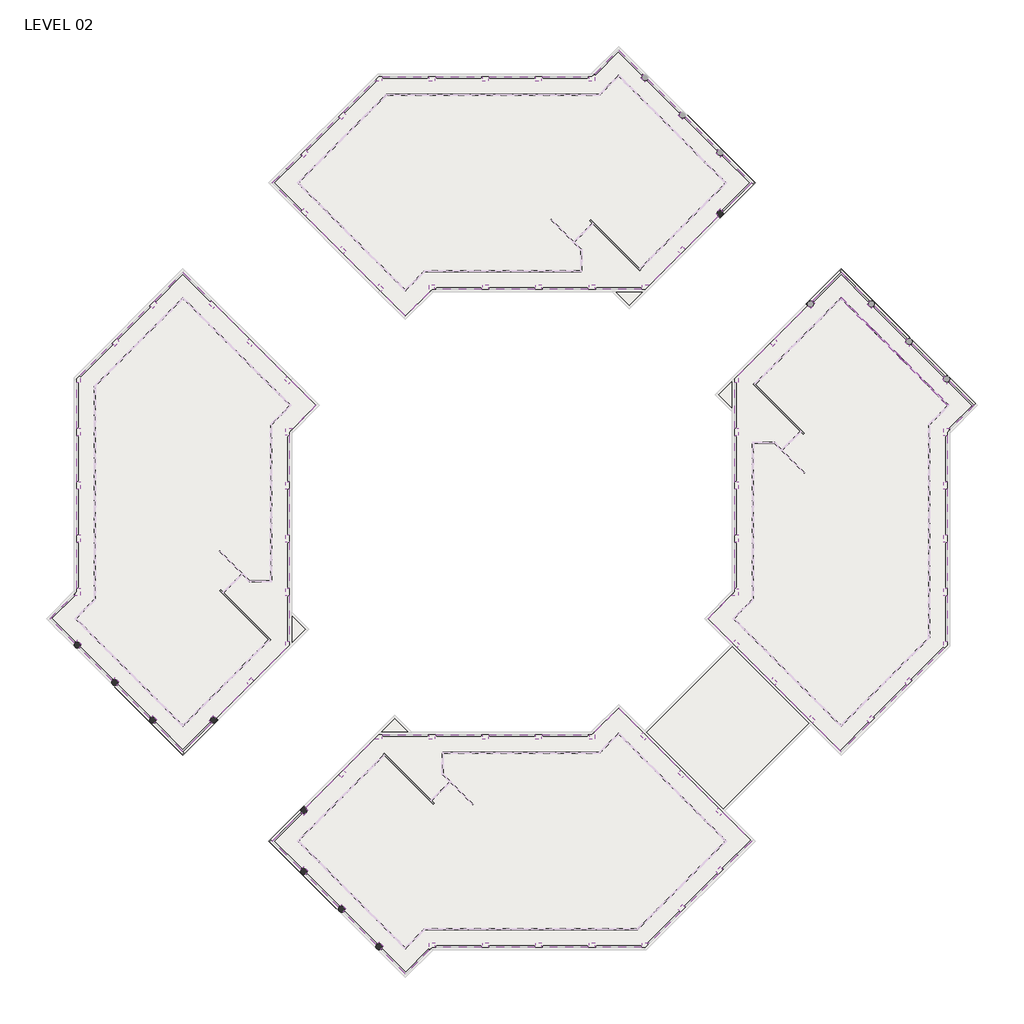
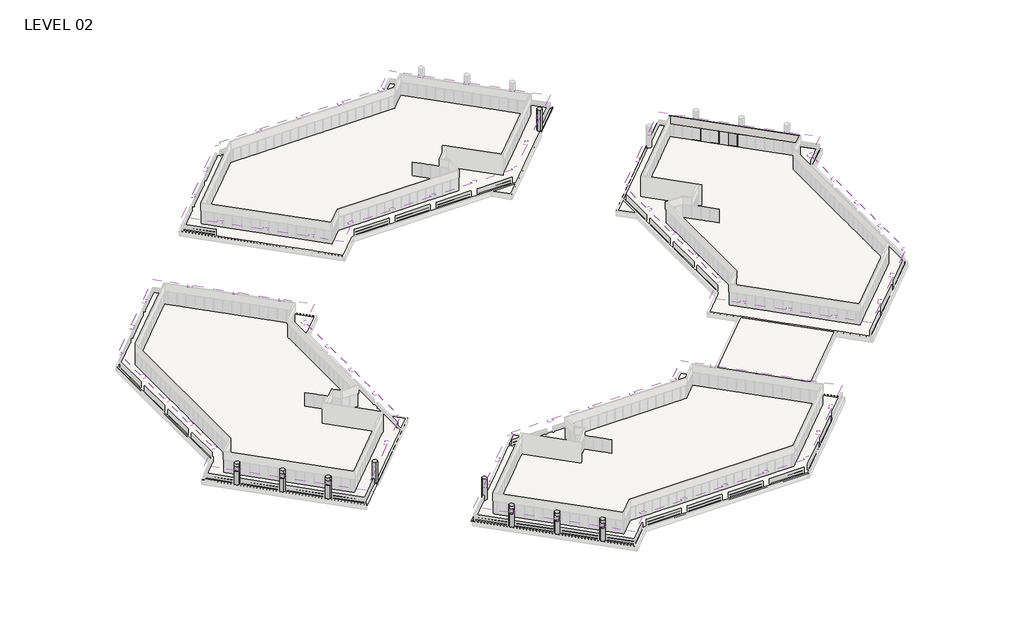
# One storey, part 18 of 19: 9 columns, 8 members, 5 slabs, 4 coverings, 2 walls, 1 plate.
"""IFC4 building model written with IfcOpenShell, lengths in millimetres."""

from ifc_helpers import new_model, si_unit, point, frame, frame_2d, origin, place, context, project, spatial, polyline, circle_curve, trimmed, segment, composite_curve, outline, extrude, faceted_brep, transform, mapped, element, save
from ifc_brep_helpers import plane_surface, cylinder_surface, advanced_brep
from components import member_5247f267, member_e44af9ab, member_c23f844a, plate_048e4634

model = new_model("IFC4")

# Units and contexts
model_context = context("Model", 3, world=origin())
ifc_project = project(units=[si_unit("LENGTHUNIT", "METRE", prefix="MILLI")], contexts=[model_context])

# Site, building, storey
site = spatial("IfcSite", under=ifc_project)
building = spatial("IfcBuilding", under=site)
storey = spatial("IfcBuildingStorey", under=building, Name="LEVEL 02", Elevation=4140.2)

# Columns
placement = place(None, origin())
element("IfcColumn", 1, ObjectType="Round Column : 36\" Diameter", at=placement, inside=storey, context=model_context, shape_type="SweptSolid", body=[
    extrude(outline(composite_curve([segment(trimmed(circle_curve(frame_2d((71.737385, 14832.2908231)), 457.2), [point((528.937385, 14832.2908231))], [point((-385.462615, 14832.2908231))], False, "CARTESIAN"), True, "CONTINUOUS"), segment(trimmed(circle_curve(frame_2d((71.737385, 14832.2908231)), 457.2), [point((-385.462615, 14832.2908231))], [point((71.737385, 15289.4908231))], False, "CARTESIAN"), True, "CONTINUOUS"), segment(trimmed(circle_curve(frame_2d((71.737385, 14832.2908231)), 457.2), [point((71.737385, 15289.4908231))], [point((528.937385, 14832.2908231))], False, "CARTESIAN"), True, "CONTINUOUS")], self_intersect=False)), frame((0.0, 0.0, 4140.2), z_axis=(0.0, 0.0, 1.0), x_axis=(1.0, 0.0, 0.0)), (0.0, 0.0, 1.0), 4140.2),
])
element("IfcColumn", 2, ObjectType="Round Column : 36\" Diameter", at=placement, inside=storey, context=model_context, shape_type="AdvancedBrep", body=[
    advanced_brep(
    [(-385.357951, 6155.8249211, 4140.2), (71.842049, 6613.0249211, 4140.2), (529.042049, 6155.8249211, 4140.2), (529.042049, 6155.8249211, 8280.4), (-385.357951, 6155.8249211, 8280.4), (-385.357951, 6155.8249211, 7721.6), (-251.4471714, 5832.5357007, 7721.6), (268.8789755, 5743.2618476, 7721.6), (268.8789755, 5743.2618476, 6731.0), (-251.4471714, 5832.5357007, 6731.0), (-385.357951, 6155.8249211, 6731.0), (71.842049, 6613.0249211, 8280.4), (-340.7210245, 6352.8618476, 6731.0), (-340.7210245, 6352.8618476, 7721.6)],
    [
        (0, 1, circle_curve(frame((71.842049, 6155.8249211, 4140.2), z_axis=(0.0, 0.0, -1.0), x_axis=(-1.0, 0.0, 0.0)), 457.2)),
        (1, 2, circle_curve(frame((71.842049, 6155.8249211, 4140.2), z_axis=(0.0, 0.0, -1.0), x_axis=(-1.0, 0.0, 0.0)), 457.2)),
        (2, 0, circle_curve(frame((71.842049, 6155.8249211, 4140.2), z_axis=(0.0, 0.0, -1.0), x_axis=(-1.0, 0.0, 0.0)), 457.2)),
        (2, 3),
        (3, 4, circle_curve(frame((71.842049, 6155.8249211, 8280.4), z_axis=(0.0, 0.0, -1.0), x_axis=(-1.0, 0.0, 0.0)), 457.2)),
        (4, 5),
        (5, 6, circle_curve(frame((71.842049, 6155.8249211, 7721.6), z_axis=(0.0, 0.0, 1.0), x_axis=(-1.0, 0.0, 0.0)), 457.2)),
        (6, 7, circle_curve(frame((71.842049, 6155.8249211, 7721.6), z_axis=(0.0, 0.0, 1.0), x_axis=(-1.0, 0.0, 0.0)), 457.2)),
        (7, 8),
        (8, 9, circle_curve(frame((71.842049, 6155.8249211, 6731.0), z_axis=(0.0, 0.0, -1.0), x_axis=(-1.0, 0.0, 0.0)), 457.2)),
        (9, 10, circle_curve(frame((71.842049, 6155.8249211, 6731.0), z_axis=(0.0, 0.0, -1.0), x_axis=(-1.0, 0.0, 0.0)), 457.2)),
        (10, 0),
        (1, 11),
        (11, 3, circle_curve(frame((71.842049, 6155.8249211, 8280.4), z_axis=(0.0, 0.0, -1.0), x_axis=(-1.0, 0.0, 0.0)), 457.2)),
        (10, 12, circle_curve(frame((71.842049, 6155.8249211, 6731.0), z_axis=(0.0, 0.0, -1.0), x_axis=(-1.0, 0.0, 0.0)), 457.2)),
        (12, 13),
        (13, 5, circle_curve(frame((71.842049, 6155.8249211, 7721.6), z_axis=(0.0, 0.0, 1.0), x_axis=(-1.0, 0.0, 0.0)), 457.2)),
        (4, 11, circle_curve(frame((71.842049, 6155.8249211, 8280.4), z_axis=(0.0, 0.0, -1.0), x_axis=(-1.0, 0.0, 0.0)), 457.2)),
        (7, 13),
        (12, 8),
    ],
    [
        plane_surface(frame((-385.357951, 6155.8249211, 4140.2), z_axis=(0.0, 0.0, -1.0), x_axis=(0.0, -1.0, 0.0))),
        cylinder_surface(frame((71.842049, 6155.8249211, 4140.2), z_axis=(0.0, 0.0, 1.0), x_axis=(-1.0, 0.0, 0.0)), 457.2),
        plane_surface(frame((-385.357951, 6155.8249211, 8280.4), z_axis=(0.0, 0.0, 1.0), x_axis=(0.0, 1.0, 0.0))),
        plane_surface(frame((14801.4761469, -8789.3353238, 6731.0), z_axis=(-0.7071067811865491, -0.7071067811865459, 0.0), x_axis=(-0.7071067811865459, 0.7071067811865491, 0.0))),
        plane_surface(frame((14693.7130735, -8681.5722503, 6731.0), z_axis=(0.0, 0.0, 1.0), x_axis=(-0.7071067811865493, -0.7071067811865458, 0.0))),
        plane_surface(frame((-4589.6801224, 10601.8209456, 7721.6), z_axis=(0.0, 0.0, -1.0000000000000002), x_axis=(-0.707106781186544, -0.7071067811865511, 0.0))),
    ],
    [
        (0, [[1, 2, 3]]),
        (1, [[-3, 4, 5, 6, 7, 8, 9, 10, 11, 12]]),
        (1, [[-2, 13, 14, -4]]),
        (1, [[-1, -12, 15, 16, 17, -6, 18, -13]]),
        (2, [[-5, -14, -18]]),
        (3, [[19, -16, 20, -9]]),
        (4, [[-20, -15, -11, -10]]),
        (5, [[-19, -8, -7, -17]]),
    ],
),
])
element("IfcColumn", 3, ObjectType="Round Column : 36\" Diameter", at=placement, inside=storey, context=model_context, shape_type="AdvancedBrep", body=[
    advanced_brep(
    [(5002.617049, 767.8499211, 4140.2), (5459.817049, 1225.0499211, 4140.2), (5917.017049, 767.8499211, 4140.2), (5917.017049, 767.8499211, 8280.4), (5002.617049, 767.8499211, 8280.4), (5002.617049, 767.8499211, 7721.6), (5136.5278286, 444.5607007, 7721.6), (5656.8539755, 355.2868476, 7721.6), (5656.8539755, 355.2868476, 6731.0), (5136.5278286, 444.5607007, 6731.0), (5002.617049, 767.8499211, 6731.0), (5459.817049, 1225.0499211, 8280.4), (5047.2539755, 964.8868476, 6731.0), (5047.2539755, 964.8868476, 7721.6)],
    [
        (0, 1, circle_curve(frame((5459.817049, 767.8499211, 4140.2), z_axis=(0.0, 0.0, -1.0), x_axis=(-1.0, 0.0, 0.0)), 457.2)),
        (1, 2, circle_curve(frame((5459.817049, 767.8499211, 4140.2), z_axis=(0.0, 0.0, -1.0), x_axis=(-1.0, 0.0, 0.0)), 457.2)),
        (2, 0, circle_curve(frame((5459.817049, 767.8499211, 4140.2), z_axis=(0.0, 0.0, -1.0), x_axis=(-1.0, 0.0, 0.0)), 457.2)),
        (2, 3),
        (3, 4, circle_curve(frame((5459.817049, 767.8499211, 8280.4), z_axis=(0.0, 0.0, -1.0), x_axis=(-1.0, 0.0, 0.0)), 457.2)),
        (4, 5),
        (5, 6, circle_curve(frame((5459.817049, 767.8499211, 7721.6), z_axis=(0.0, 0.0, 1.0), x_axis=(-1.0, 0.0, 0.0)), 457.2)),
        (6, 7, circle_curve(frame((5459.817049, 767.8499211, 7721.6), z_axis=(0.0, 0.0, 1.0), x_axis=(-1.0, 0.0, 0.0)), 457.2)),
        (7, 8),
        (8, 9, circle_curve(frame((5459.817049, 767.8499211, 6731.0), z_axis=(0.0, 0.0, -1.0), x_axis=(-1.0, 0.0, 0.0)), 457.2)),
        (9, 10, circle_curve(frame((5459.817049, 767.8499211, 6731.0), z_axis=(0.0, 0.0, -1.0), x_axis=(-1.0, 0.0, 0.0)), 457.2)),
        (10, 0),
        (1, 11),
        (11, 3, circle_curve(frame((5459.817049, 767.8499211, 8280.4), z_axis=(0.0, 0.0, -1.0), x_axis=(-1.0, 0.0, 0.0)), 457.2)),
        (10, 12, circle_curve(frame((5459.817049, 767.8499211, 6731.0), z_axis=(0.0, 0.0, -1.0), x_axis=(-1.0, 0.0, 0.0)), 457.2)),
        (12, 13),
        (13, 5, circle_curve(frame((5459.817049, 767.8499211, 7721.6), z_axis=(0.0, 0.0, 1.0), x_axis=(-1.0, 0.0, 0.0)), 457.2)),
        (4, 11, circle_curve(frame((5459.817049, 767.8499211, 8280.4), z_axis=(0.0, 0.0, -1.0), x_axis=(-1.0, 0.0, 0.0)), 457.2)),
        (7, 13),
        (12, 8),
    ],
    [
        plane_surface(frame((5002.617049, 767.8499211, 4140.2), z_axis=(0.0, 0.0, -1.0), x_axis=(0.0, -1.0, 0.0))),
        cylinder_surface(frame((5459.817049, 767.8499211, 4140.2), z_axis=(0.0, 0.0, 1.0), x_axis=(-1.0, 0.0, 0.0)), 457.2),
        plane_surface(frame((5002.617049, 767.8499211, 8280.4), z_axis=(0.0, 0.0, 1.0), x_axis=(0.0, 1.0, 0.0))),
        plane_surface(frame((14801.4761469, -8789.3353238, 6731.0), z_axis=(-0.7071067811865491, -0.7071067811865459, 0.0), x_axis=(-0.7071067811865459, 0.7071067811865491, 0.0))),
        plane_surface(frame((14693.7130735, -8681.5722503, 6731.0), z_axis=(0.0, 0.0, 1.0), x_axis=(-0.7071067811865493, -0.7071067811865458, 0.0))),
        plane_surface(frame((-4589.6801224, 10601.8209456, 7721.6), z_axis=(0.0, 0.0, -1.0000000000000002), x_axis=(-0.707106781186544, -0.7071067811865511, 0.0))),
    ],
    [
        (0, [[1, 2, 3]]),
        (1, [[-3, 4, 5, 6, 7, 8, 9, 10, 11, 12]]),
        (1, [[-2, 13, 14, -4]]),
        (1, [[-1, -12, 15, 16, 17, -6, 18, -13]]),
        (2, [[-5, -14, -18]]),
        (3, [[19, -16, 20, -9]]),
        (4, [[-20, -15, -11, -10]]),
        (5, [[-19, -8, -7, -17]]),
    ],
),
])
element("IfcColumn", 4, ObjectType="Round Column : 36\" Diameter", at=placement, inside=storey, context=model_context, shape_type="AdvancedBrep", body=[
    advanced_brep(
    [(10360.8340979, -4590.3671279, 4140.2), (10818.0340979, -4133.1671279, 4140.2), (11275.2340979, -4590.3671279, 4140.2), (11275.2340979, -4590.3671279, 8280.4), (10360.8340979, -4590.3671279, 8280.4), (10360.8340979, -4590.3671279, 7721.6), (10494.7448776, -4913.6563482, 7721.6), (11015.0710245, -5002.9302013, 7721.6), (11015.0710245, -5002.9302013, 6731.0), (10494.7448776, -4913.6563482, 6731.0), (10360.8340979, -4590.3671279, 6731.0), (10818.0340979, -4133.1671279, 8280.4), (10405.4710245, -4393.3302013, 6731.0), (10405.4710245, -4393.3302013, 7721.6)],
    [
        (0, 1, circle_curve(frame((10818.0340979, -4590.3671279, 4140.2), z_axis=(0.0, 0.0, -1.0), x_axis=(-1.0, 0.0, 0.0)), 457.2)),
        (1, 2, circle_curve(frame((10818.0340979, -4590.3671279, 4140.2), z_axis=(0.0, 0.0, -1.0), x_axis=(-1.0, 0.0, 0.0)), 457.2)),
        (2, 0, circle_curve(frame((10818.0340979, -4590.3671279, 4140.2), z_axis=(0.0, 0.0, -1.0), x_axis=(-1.0, 0.0, 0.0)), 457.2)),
        (2, 3),
        (3, 4, circle_curve(frame((10818.0340979, -4590.3671279, 8280.4), z_axis=(0.0, 0.0, -1.0), x_axis=(-1.0, 0.0, 0.0)), 457.2)),
        (4, 5),
        (5, 6, circle_curve(frame((10818.0340979, -4590.3671279, 7721.6), z_axis=(0.0, 0.0, 1.0), x_axis=(-1.0, 0.0, 0.0)), 457.2)),
        (6, 7, circle_curve(frame((10818.0340979, -4590.3671279, 7721.6), z_axis=(0.0, 0.0, 1.0), x_axis=(-1.0, 0.0, 0.0)), 457.2)),
        (7, 8),
        (8, 9, circle_curve(frame((10818.0340979, -4590.3671279, 6731.0), z_axis=(0.0, 0.0, -1.0), x_axis=(-1.0, 0.0, 0.0)), 457.2)),
        (9, 10, circle_curve(frame((10818.0340979, -4590.3671279, 6731.0), z_axis=(0.0, 0.0, -1.0), x_axis=(-1.0, 0.0, 0.0)), 457.2)),
        (10, 0),
        (1, 11),
        (11, 3, circle_curve(frame((10818.0340979, -4590.3671279, 8280.4), z_axis=(0.0, 0.0, -1.0), x_axis=(-1.0, 0.0, 0.0)), 457.2)),
        (10, 12, circle_curve(frame((10818.0340979, -4590.3671279, 6731.0), z_axis=(0.0, 0.0, -1.0), x_axis=(-1.0, 0.0, 0.0)), 457.2)),
        (12, 13),
        (13, 5, circle_curve(frame((10818.0340979, -4590.3671279, 7721.6), z_axis=(0.0, 0.0, 1.0), x_axis=(-1.0, 0.0, 0.0)), 457.2)),
        (4, 11, circle_curve(frame((10818.0340979, -4590.3671279, 8280.4), z_axis=(0.0, 0.0, -1.0), x_axis=(-1.0, 0.0, 0.0)), 457.2)),
        (7, 13),
        (12, 8),
    ],
    [
        plane_surface(frame((10360.8340979, -4590.3671279, 4140.2), z_axis=(0.0, 0.0, -1.0), x_axis=(0.0, -1.0, 0.0))),
        cylinder_surface(frame((10818.0340979, -4590.3671279, 4140.2), z_axis=(0.0, 0.0, 1.0), x_axis=(-1.0, 0.0, 0.0)), 457.2),
        plane_surface(frame((10360.8340979, -4590.3671279, 8280.4), z_axis=(0.0, 0.0, 1.0), x_axis=(0.0, 1.0, 0.0))),
        plane_surface(frame((14801.4761469, -8789.3353238, 6731.0), z_axis=(-0.7071067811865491, -0.7071067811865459, 0.0), x_axis=(-0.7071067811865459, 0.7071067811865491, 0.0))),
        plane_surface(frame((14693.7130735, -8681.5722503, 6731.0), z_axis=(0.0, 0.0, 1.0), x_axis=(-0.7071067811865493, -0.7071067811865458, 0.0))),
        plane_surface(frame((-4589.6801224, 10601.8209456, 7721.6), z_axis=(0.0, 0.0, -1.0000000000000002), x_axis=(-0.707106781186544, -0.7071067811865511, 0.0))),
    ],
    [
        (0, [[1, 2, 3]]),
        (1, [[-3, 4, 5, 6, 7, 8, 9, 10, 11, 12]]),
        (1, [[-2, 13, 14, -4]]),
        (1, [[-1, -12, 15, 16, 17, -6, 18, -13]]),
        (2, [[-5, -14, -18]]),
        (3, [[19, -16, 20, -9]]),
        (4, [[-20, -15, -11, -10]]),
        (5, [[-19, -8, -7, -17]]),
    ],
),
])
element("IfcColumn", 5, ObjectType="Round Column : 36\" Diameter", at=placement, inside=storey, context=model_context, shape_type="SweptSolid", body=[
    extrude(outline(composite_curve([segment(trimmed(circle_curve(frame_2d((59580.162615, 100203.6443539)), 457.2), [point((59122.962615, 100203.6443539))], [point((60037.362615, 100203.6443539))], False, "CARTESIAN"), True, "CONTINUOUS"), segment(trimmed(circle_curve(frame_2d((59580.162615, 100203.6443539)), 457.2), [point((60037.362615, 100203.6443539))], [point((59580.162615, 99746.4443539))], False, "CARTESIAN"), True, "CONTINUOUS"), segment(trimmed(circle_curve(frame_2d((59580.162615, 100203.6443539)), 457.2), [point((59580.162615, 99746.4443539))], [point((59122.962615, 100203.6443539))], False, "CARTESIAN"), True, "CONTINUOUS")], self_intersect=False)), frame((0.0, 0.0, 4140.2), z_axis=(0.0, 0.0, 1.0), x_axis=(1.0, 0.0, 0.0)), (0.0, 0.0, 1.0), 4140.2),
])
element("IfcColumn", 6, ObjectType="Round Column : 36\" Diameter", at=placement, inside=storey, context=model_context, shape_type="SweptSolid", body=[
    extrude(outline(composite_curve([segment(trimmed(circle_curve(frame_2d((-12859.7267654, 27763.7549735)), 457.2), [point((-12859.7267654, 28220.9549735))], [point((-12402.5267654, 27763.7549735))], False, "CARTESIAN"), True, "CONTINUOUS"), segment(trimmed(circle_curve(frame_2d((-12859.7267654, 27763.7549735)), 457.2), [point((-12402.5267654, 27763.7549735))], [point((-12859.7267654, 27306.5549735))], False, "CARTESIAN"), True, "CONTINUOUS"), segment(trimmed(circle_curve(frame_2d((-12859.7267654, 27763.7549735)), 457.2), [point((-12859.7267654, 27306.5549735))], [point((-12859.7267654, 28220.9549735))], False, "CARTESIAN"), True, "CONTINUOUS")], self_intersect=False)), frame((0.0, 0.0, 4140.2), z_axis=(0.0, 0.0, 1.0), x_axis=(1.0, 0.0, 0.0)), (0.0, 0.0, 1.0), 4140.2),
])
element("IfcColumn", 7, ObjectType="Round Column : 36\" Diameter", at=placement, inside=storey, context=model_context, shape_type="AdvancedBrep", body=[
    advanced_brep(
    [(-21078.9926674, 27763.8596375, 4140.2), (-21536.1926674, 27306.6596375, 4140.2), (-21536.1926674, 28221.0596375, 4140.2), (-21536.1926674, 27306.6596375, 6731.0), (-21859.4818878, 27440.5704171, 6731.0), (-21948.7557409, 27960.896564, 6731.0), (-21948.7557409, 27960.896564, 7721.6), (-21859.4818878, 27440.5704171, 7721.6), (-21536.1926674, 27306.6596375, 7721.6), (-21536.1926674, 27306.6596375, 8280.4), (-21536.1926674, 28221.0596375, 8280.4), (-21078.9926674, 27763.8596375, 8280.4), (-21339.1557409, 27351.296564, 7721.6), (-21339.1557409, 27351.296564, 6731.0)],
    [
        (0, 1, circle_curve(frame((-21536.1926674, 27763.8596375, 4140.2), z_axis=(0.0, 0.0, -1.0), x_axis=(0.0, -1.0, 0.0)), 457.2)),
        (1, 2, circle_curve(frame((-21536.1926674, 27763.8596375, 4140.2), z_axis=(0.0, 0.0, -1.0), x_axis=(0.0, -1.0, 0.0)), 457.2)),
        (2, 0, circle_curve(frame((-21536.1926674, 27763.8596375, 4140.2), z_axis=(0.0, 0.0, -1.0), x_axis=(0.0, -1.0, 0.0)), 457.2)),
        (1, 3),
        (3, 4, circle_curve(frame((-21536.1926674, 27763.8596375, 6731.0), z_axis=(0.0, 0.0, -1.0), x_axis=(0.0, -1.0, 0.0)), 457.2)),
        (4, 5, circle_curve(frame((-21536.1926674, 27763.8596375, 6731.0), z_axis=(0.0, 0.0, -1.0), x_axis=(0.0, -1.0, 0.0)), 457.2)),
        (5, 6),
        (6, 7, circle_curve(frame((-21536.1926674, 27763.8596375, 7721.6), z_axis=(0.0, 0.0, 1.0), x_axis=(0.0, -1.0, 0.0)), 457.2)),
        (7, 8, circle_curve(frame((-21536.1926674, 27763.8596375, 7721.6), z_axis=(0.0, 0.0, 1.0), x_axis=(0.0, -1.0, 0.0)), 457.2)),
        (8, 9),
        (9, 10, circle_curve(frame((-21536.1926674, 27763.8596375, 8280.4), z_axis=(0.0, 0.0, -1.0), x_axis=(0.0, -1.0, 0.0)), 457.2)),
        (10, 2),
        (10, 11, circle_curve(frame((-21536.1926674, 27763.8596375, 8280.4), z_axis=(0.0, 0.0, -1.0), x_axis=(0.0, -1.0, 0.0)), 457.2)),
        (11, 0),
        (11, 9, circle_curve(frame((-21536.1926674, 27763.8596375, 8280.4), z_axis=(0.0, 0.0, -1.0), x_axis=(0.0, -1.0, 0.0)), 457.2)),
        (8, 12, circle_curve(frame((-21536.1926674, 27763.8596375, 7721.6), z_axis=(0.0, 0.0, 1.0), x_axis=(0.0, -1.0, 0.0)), 457.2)),
        (12, 13),
        (13, 3, circle_curve(frame((-21536.1926674, 27763.8596375, 6731.0), z_axis=(0.0, 0.0, -1.0), x_axis=(0.0, -1.0, 0.0)), 457.2)),
        (5, 13),
        (12, 6),
    ],
    [
        plane_surface(frame((-21536.1926674, 27306.6596375, 4140.2), z_axis=(0.0, 0.0, -1.0), x_axis=(-1.0, 0.0, 0.0))),
        cylinder_surface(frame((-21536.1926674, 27763.8596375, 4140.2), z_axis=(0.0, 0.0, 1.0), x_axis=(0.0, -1.0, 0.0)), 457.2),
        plane_surface(frame((-21536.1926674, 27306.6596375, 8280.4), z_axis=(0.0, 0.0, 1.0), x_axis=(1.0, 0.0, 0.0))),
        plane_surface(frame((-36481.3529123, 42493.4937354, 6731.0), z_axis=(-0.7071067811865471, -0.7071067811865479, 0.0), x_axis=(-0.7071067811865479, 0.7071067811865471, 0.0))),
        plane_surface(frame((-36589.1159857, 42170.2045151, 6731.0), z_axis=(0.0, 0.0, 1.0000000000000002), x_axis=(0.7071067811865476, 0.7071067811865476, 0.0))),
        plane_surface(frame((-17305.7227899, 22886.8113192, 7721.6), z_axis=(0.0, 0.0, -1.0000000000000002), x_axis=(0.707106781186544, 0.7071067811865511, 0.0))),
    ],
    [
        (0, [[1, 2, 3]]),
        (1, [[-2, 4, 5, 6, 7, 8, 9, 10, 11, 12]]),
        (1, [[-3, -12, 13, 14]]),
        (1, [[-1, -14, 15, -10, 16, 17, 18, -4]]),
        (2, [[-11, -15, -13]]),
        (3, [[19, -17, 20, -7]]),
        (4, [[-19, -6, -5, -18]]),
        (5, [[-20, -16, -9, -8]]),
    ],
),
])
element("IfcColumn", 8, ObjectType="Round Column : 36\" Diameter", at=placement, inside=storey, context=model_context, shape_type="AdvancedBrep", body=[
    advanced_brep(
    [(-26466.9676674, 33151.8346375, 4140.2), (-26924.1676674, 32694.6346375, 4140.2), (-26924.1676674, 33609.0346375, 4140.2), (-26924.1676674, 32694.6346375, 6731.0), (-27247.4568878, 32828.5454171, 6731.0), (-27336.7307409, 33348.871564, 6731.0), (-27336.7307409, 33348.871564, 7721.6), (-27247.4568878, 32828.5454171, 7721.6), (-26924.1676674, 32694.6346375, 7721.6), (-26924.1676674, 32694.6346375, 8280.4), (-26924.1676674, 33609.0346375, 8280.4), (-26466.9676674, 33151.8346375, 8280.4), (-26727.1307409, 32739.271564, 7721.6), (-26727.1307409, 32739.271564, 6731.0)],
    [
        (0, 1, circle_curve(frame((-26924.1676674, 33151.8346375, 4140.2), z_axis=(0.0, 0.0, -1.0), x_axis=(0.0, -1.0, 0.0)), 457.2)),
        (1, 2, circle_curve(frame((-26924.1676674, 33151.8346375, 4140.2), z_axis=(0.0, 0.0, -1.0), x_axis=(0.0, -1.0, 0.0)), 457.2)),
        (2, 0, circle_curve(frame((-26924.1676674, 33151.8346375, 4140.2), z_axis=(0.0, 0.0, -1.0), x_axis=(0.0, -1.0, 0.0)), 457.2)),
        (1, 3),
        (3, 4, circle_curve(frame((-26924.1676674, 33151.8346375, 6731.0), z_axis=(0.0, 0.0, -1.0), x_axis=(0.0, -1.0, 0.0)), 457.2)),
        (4, 5, circle_curve(frame((-26924.1676674, 33151.8346375, 6731.0), z_axis=(0.0, 0.0, -1.0), x_axis=(0.0, -1.0, 0.0)), 457.2)),
        (5, 6),
        (6, 7, circle_curve(frame((-26924.1676674, 33151.8346375, 7721.6), z_axis=(0.0, 0.0, 1.0), x_axis=(0.0, -1.0, 0.0)), 457.2)),
        (7, 8, circle_curve(frame((-26924.1676674, 33151.8346375, 7721.6), z_axis=(0.0, 0.0, 1.0), x_axis=(0.0, -1.0, 0.0)), 457.2)),
        (8, 9),
        (9, 10, circle_curve(frame((-26924.1676674, 33151.8346375, 8280.4), z_axis=(0.0, 0.0, -1.0), x_axis=(0.0, -1.0, 0.0)), 457.2)),
        (10, 2),
        (10, 11, circle_curve(frame((-26924.1676674, 33151.8346375, 8280.4), z_axis=(0.0, 0.0, -1.0), x_axis=(0.0, -1.0, 0.0)), 457.2)),
        (11, 0),
        (11, 9, circle_curve(frame((-26924.1676674, 33151.8346375, 8280.4), z_axis=(0.0, 0.0, -1.0), x_axis=(0.0, -1.0, 0.0)), 457.2)),
        (8, 12, circle_curve(frame((-26924.1676674, 33151.8346375, 7721.6), z_axis=(0.0, 0.0, 1.0), x_axis=(0.0, -1.0, 0.0)), 457.2)),
        (12, 13),
        (13, 3, circle_curve(frame((-26924.1676674, 33151.8346375, 6731.0), z_axis=(0.0, 0.0, -1.0), x_axis=(0.0, -1.0, 0.0)), 457.2)),
        (5, 13),
        (12, 6),
    ],
    [
        plane_surface(frame((-26924.1676674, 32694.6346375, 4140.2), z_axis=(0.0, 0.0, -1.0), x_axis=(-1.0, 0.0, 0.0))),
        cylinder_surface(frame((-26924.1676674, 33151.8346375, 4140.2), z_axis=(0.0, 0.0, 1.0), x_axis=(0.0, -1.0, 0.0)), 457.2),
        plane_surface(frame((-26924.1676674, 32694.6346375, 8280.4), z_axis=(0.0, 0.0, 1.0), x_axis=(1.0, 0.0, 0.0))),
        plane_surface(frame((-36481.3529123, 42493.4937354, 6731.0), z_axis=(-0.7071067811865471, -0.7071067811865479, 0.0), x_axis=(-0.7071067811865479, 0.7071067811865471, 0.0))),
        plane_surface(frame((-36589.1159857, 42170.2045151, 6731.0), z_axis=(0.0, 0.0, 1.0000000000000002), x_axis=(0.7071067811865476, 0.7071067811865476, 0.0))),
        plane_surface(frame((-17305.7227899, 22886.8113192, 7721.6), z_axis=(0.0, 0.0, -1.0000000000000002), x_axis=(0.707106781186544, 0.7071067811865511, 0.0))),
    ],
    [
        (0, [[1, 2, 3]]),
        (1, [[-2, 4, 5, 6, 7, 8, 9, 10, 11, 12]]),
        (1, [[-3, -12, 13, 14]]),
        (1, [[-1, -14, 15, -10, 16, 17, 18, -4]]),
        (2, [[-11, -15, -13]]),
        (3, [[19, -17, 20, -7]]),
        (4, [[-19, -6, -5, -18]]),
        (5, [[-20, -16, -9, -8]]),
    ],
),
])
element("IfcColumn", 9, ObjectType="Round Column : 36\" Diameter", at=placement, inside=storey, context=model_context, shape_type="AdvancedBrep", body=[
    advanced_brep(
    [(-31825.1847164, 38510.0516865, 4140.2), (-32282.3847164, 38052.8516865, 4140.2), (-32282.3847164, 38967.2516865, 4140.2), (-32282.3847164, 38052.8516865, 6731.0), (-32605.6739368, 38186.7624661, 6731.0), (-32694.9477899, 38707.088613, 6731.0), (-32694.9477899, 38707.088613, 7721.6), (-32605.6739368, 38186.7624661, 7721.6), (-32282.3847164, 38052.8516865, 7721.6), (-32282.3847164, 38052.8516865, 8280.4), (-32282.3847164, 38967.2516865, 8280.4), (-31825.1847164, 38510.0516865, 8280.4), (-32085.3477899, 38097.488613, 7721.6), (-32085.3477899, 38097.488613, 6731.0)],
    [
        (0, 1, circle_curve(frame((-32282.3847164, 38510.0516865, 4140.2), z_axis=(0.0, 0.0, -1.0), x_axis=(0.0, -1.0, 0.0)), 457.2)),
        (1, 2, circle_curve(frame((-32282.3847164, 38510.0516865, 4140.2), z_axis=(0.0, 0.0, -1.0), x_axis=(0.0, -1.0, 0.0)), 457.2)),
        (2, 0, circle_curve(frame((-32282.3847164, 38510.0516865, 4140.2), z_axis=(0.0, 0.0, -1.0), x_axis=(0.0, -1.0, 0.0)), 457.2)),
        (1, 3),
        (3, 4, circle_curve(frame((-32282.3847164, 38510.0516865, 6731.0), z_axis=(0.0, 0.0, -1.0), x_axis=(0.0, -1.0, 0.0)), 457.2)),
        (4, 5, circle_curve(frame((-32282.3847164, 38510.0516865, 6731.0), z_axis=(0.0, 0.0, -1.0), x_axis=(0.0, -1.0, 0.0)), 457.2)),
        (5, 6),
        (6, 7, circle_curve(frame((-32282.3847164, 38510.0516865, 7721.6), z_axis=(0.0, 0.0, 1.0), x_axis=(0.0, -1.0, 0.0)), 457.2)),
        (7, 8, circle_curve(frame((-32282.3847164, 38510.0516865, 7721.6), z_axis=(0.0, 0.0, 1.0), x_axis=(0.0, -1.0, 0.0)), 457.2)),
        (8, 9),
        (9, 10, circle_curve(frame((-32282.3847164, 38510.0516865, 8280.4), z_axis=(0.0, 0.0, -1.0), x_axis=(0.0, -1.0, 0.0)), 457.2)),
        (10, 2),
        (10, 11, circle_curve(frame((-32282.3847164, 38510.0516865, 8280.4), z_axis=(0.0, 0.0, -1.0), x_axis=(0.0, -1.0, 0.0)), 457.2)),
        (11, 0),
        (11, 9, circle_curve(frame((-32282.3847164, 38510.0516865, 8280.4), z_axis=(0.0, 0.0, -1.0), x_axis=(0.0, -1.0, 0.0)), 457.2)),
        (8, 12, circle_curve(frame((-32282.3847164, 38510.0516865, 7721.6), z_axis=(0.0, 0.0, 1.0), x_axis=(0.0, -1.0, 0.0)), 457.2)),
        (12, 13),
        (13, 3, circle_curve(frame((-32282.3847164, 38510.0516865, 6731.0), z_axis=(0.0, 0.0, -1.0), x_axis=(0.0, -1.0, 0.0)), 457.2)),
        (5, 13),
        (12, 6),
    ],
    [
        plane_surface(frame((-32282.3847164, 38052.8516865, 4140.2), z_axis=(0.0, 0.0, -1.0), x_axis=(-1.0, 0.0, 0.0))),
        cylinder_surface(frame((-32282.3847164, 38510.0516865, 4140.2), z_axis=(0.0, 0.0, 1.0), x_axis=(0.0, -1.0, 0.0)), 457.2),
        plane_surface(frame((-32282.3847164, 38052.8516865, 8280.4), z_axis=(0.0, 0.0, 1.0), x_axis=(1.0, 0.0, 0.0))),
        plane_surface(frame((-36481.3529123, 42493.4937354, 6731.0), z_axis=(-0.7071067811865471, -0.7071067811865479, 0.0), x_axis=(-0.7071067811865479, 0.7071067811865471, 0.0))),
        plane_surface(frame((-36589.1159857, 42170.2045151, 6731.0), z_axis=(0.0, 0.0, 1.0000000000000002), x_axis=(0.7071067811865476, 0.7071067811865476, 0.0))),
        plane_surface(frame((-17305.7227899, 22886.8113192, 7721.6), z_axis=(0.0, 0.0, -1.0000000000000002), x_axis=(0.707106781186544, 0.7071067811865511, 0.0))),
    ],
    [
        (0, [[1, 2, 3]]),
        (1, [[-2, 4, 5, 6, 7, 8, 9, 10, 11, 12]]),
        (1, [[-3, -12, 13, 14]]),
        (1, [[-1, -14, 15, -10, 16, 17, 18, -4]]),
        (2, [[-11, -15, -13]]),
        (3, [[19, -17, 20, -7]]),
        (4, [[-19, -6, -5, -18]]),
        (5, [[-20, -16, -9, -8]]),
    ],
),
])

# Coverings
element("IfcCovering", 10, ObjectType="Stucco + Metal Suspension Channels", at=placement, inside=storey, context=model_context, shape_type="SweptSolid", body=[
    extrude(outline(polyline([(14585.95, -8501.9671279), (11069.4812693, -4985.4983972), (11464.6125387, -4590.3671279), (10818.0340979, -3943.7886872), (10422.9028286, -4338.9199565), (5711.2642204, 372.7186518), (6106.3954897, 767.8499211), (5459.817049, 1414.4283618), (5064.6857796, 1019.2970925), (323.2892204, 5760.6936518), (718.4204897, 6155.8249211), (71.842049, 6802.4033618), (-323.2892204, 6407.2720925), (-4410.075, 10494.0578721), (-323.3415481, 14580.791324), (71.737385, 14185.7123909), (718.3158214, 14832.2908274), (323.2368884, 15227.3697605), (5064.7381159, 19968.870988), (5459.817049, 19573.7920549), (6106.3954854, 20220.3704914), (5711.3165524, 20615.4494245), (10217.15, 25121.2828721), (11275.2340979, 25121.2828721), (11275.2340979, 25680.0828721), (17938.75, 25680.0828721), (17938.75, 25121.2828721), (18853.15, 25121.2828721), (18853.15, 25680.0828721), (25558.75, 25680.0828721), (25558.75, 25121.2828721), (26473.15, 25121.2828721), (26473.15, 25680.0828721), (33178.75, 25680.0828721), (33178.75, 25121.2828721), (34093.15, 25121.2828721), (34093.15, 25680.0828721), (40840.8340979, 25680.0828721), (40840.8340979, 25121.2828721), (41755.2340979, 25121.2828721), (41755.2340979, 26179.3669701), (45065.95, 29490.0828721), (48552.6607796, 26003.3720925), (48157.5295103, 25608.2408231), (48804.107951, 24961.6623824), (49199.2392204, 25356.7936518), (53940.6357796, 20615.3970925), (53545.5045103, 20220.2658231), (54192.082951, 19573.6873824), (54587.2142204, 19968.8186518), (59328.6107796, 15227.4220925), (58933.4795103, 14832.2908231), (59580.057951, 14185.7123824), (59975.1892204, 14580.8436518), (64061.975, 10494.0578721), (59975.1892204, 6407.2720925), (59580.057951, 6802.4033618), (58933.4795103, 6155.8249211), (59328.6107796, 5760.6936518), (54587.2142204, 1019.2970925), (54192.082951, 1414.4283618), (53545.5045103, 767.8499211), (53940.6357796, 372.7186518), (49434.75, -4133.1671279), (48376.6659021, -4133.1671279), (48376.6659021, -4691.9671279), (41713.15, -4691.9671279), (41713.15, -4133.1671279), (40798.75, -4133.1671279), (40798.75, -4691.9671279), (34093.15, -4691.9671279), (34093.15, -4133.1671279), (33178.75, -4133.1671279), (33178.75, -4691.9671279), (26473.15, -4691.9671279), (26473.15, -4133.1671279), (25558.75, -4133.1671279), (25558.75, -4691.9671279), (18853.15, -4691.9671279), (18853.15, -4133.1671279), (17938.75, -4133.1671279), (17938.75, -5149.1671279), (14585.95, -8501.9671279)]), holes=[polyline([(14585.95, -4981.7067284), (17364.8896005, -2202.7671279), (47844.8896005, -2202.7671279), (60541.7146005, 10494.0578721), (45065.95, 25969.8224727), (42287.0103995, 23190.8828721), (19818.35, 23190.8828721), (19818.35, 20062.060567), (20885.327533, 18995.083034), (18239.4753856, 16349.2308866), (11562.0057472, 23026.700525), (11418.3216493, 22883.0164271), (11458.7328019, 22842.6052745), (-889.8146005, 10494.0578721), (14585.95, -4981.7067284)])]), frame((0.0, 0.0, 6731.0), z_axis=(0.0, 0.0, 1.0), x_axis=(1.0, 0.0, 0.0)), (0.0, 0.0, 1.0), 38.1),
])
element("IfcCovering", 11, ObjectType="Stucco + Metal Suspension Channels", at=placement, inside=storey, context=model_context, shape_type="SweptSolid", body=[
    extrude(outline(polyline([(95845.8847164, 72757.9675885), (92493.0847164, 69405.1675885), (91477.0847164, 69405.1675885), (91477.0847164, 68490.7675885), (92035.8847164, 68490.7675885), (92035.8847164, 61785.1675885), (91477.0847164, 61785.1675885), (91477.0847164, 60870.7675885), (92035.8847164, 60870.7675885), (92035.8847164, 54165.1675885), (91477.0847164, 54165.1675885), (91477.0847164, 53250.7675885), (92035.8847164, 53250.7675885), (92035.8847164, 46545.1675885), (91477.0847164, 46545.1675885), (91477.0847164, 45630.7675885), (92035.8847164, 45630.7675885), (92035.8847164, 38967.2516865), (91477.0847164, 38967.2516865), (91477.0847164, 37909.1675885), (86971.1989368, 33403.2818089), (86576.0676674, 33798.4130782), (85929.4892267, 33151.8346375), (86324.620496, 32756.7033682), (81583.2239368, 28015.3068089), (81188.0926674, 28410.4380782), (80541.5142267, 27763.8596375), (80936.645496, 27368.7283682), (76849.8597164, 23281.9425885), (72763.0739368, 27368.7283682), (73158.2052061, 27763.8596375), (72511.6267654, 28410.4380782), (72116.495496, 28015.3068089), (67375.0989368, 32756.7033682), (67770.2302061, 33151.8346375), (67123.6517654, 33798.4130782), (66728.520496, 33403.2818089), (61987.1239368, 38144.6783682), (62382.2552061, 38539.8096375), (61735.6767654, 39186.3880782), (61340.545496, 38791.2568089), (57853.8347164, 42277.9675885), (61164.5506185, 45588.6834906), (62222.6347164, 45588.6834906), (62222.6347164, 46503.0834906), (61663.8347164, 46503.0834906), (61663.8347164, 53250.7675885), (62222.6347164, 53250.7675885), (62222.6347164, 54165.1675885), (61663.8347164, 54165.1675885), (61663.8347164, 60870.7675885), (62222.6347164, 60870.7675885), (62222.6347164, 61785.1675885), (61663.8347164, 61785.1675885), (61663.8347164, 68490.7675885), (62222.6347164, 68490.7675885), (62222.6347164, 69405.1675885), (61663.8347164, 69405.1675885), (61663.8347164, 76068.6834906), (62222.6347164, 76068.6834906), (62222.6347164, 77126.7675885), (66728.468164, 81632.6010362), (67123.5470971, 81237.5221031), (67770.1255336, 81884.1005396), (67375.0466005, 82279.1794726), (72116.547828, 87020.6807002), (72511.6267611, 86625.6017671), (73158.2051976, 87272.1802036), (72763.1262645, 87667.2591366), (76849.8597164, 91753.9925885), (80936.645496, 87667.2068089), (80541.5142267, 87272.0755396), (81188.0926674, 86625.4970988), (81583.2239368, 87020.6283682), (86324.620496, 82279.2318089), (85929.4892267, 81884.1005396), (86576.0676674, 81237.5220988), (86971.1989368, 81632.6533682), (91682.837545, 76921.0147599), (91287.7062757, 76525.8834906), (91934.2847164, 75879.3050499), (92329.4159857, 76274.4363192), (95845.8847164, 72757.9675885)]), holes=[polyline([(92325.6243169, 72757.9675885), (76849.8597164, 88233.7321891), (64501.312314, 75885.1847867), (64460.9011615, 75925.5959392), (64317.2170635, 75781.9118413), (70994.6867019, 69104.4422029), (68348.8345545, 66458.5900555), (67281.8570215, 67525.5675885), (64153.0347164, 67525.5675885), (64153.0347164, 45056.9071891), (61374.0951159, 42277.9675885), (76849.8597164, 26802.202988), (89546.6847164, 39499.027988), (89546.6847164, 69979.027988), (92325.6243169, 72757.9675885)])]), frame((0.0, 0.0, 6731.0), z_axis=(0.0, 0.0, 1.0), x_axis=(1.0, 0.0, 0.0)), (0.0, 0.0, 1.0), 38.1),
])
element("IfcCovering", 12, ObjectType="Stucco + Metal Suspension Channels", at=placement, inside=storey, context=model_context, shape_type="SweptSolid", body=[
    extrude(outline(polyline([(45065.95, 123537.9023049), (48582.4187307, 120021.4335743), (48187.2874613, 119626.3023049), (48833.8659021, 118979.7238642), (49228.9971714, 119374.8551335), (53940.6357796, 114663.2165253), (53545.5045103, 114268.085256), (54192.082951, 113621.5068152), (54587.2142204, 114016.6380846), (59328.6107796, 109275.2415253), (58933.4795103, 108880.110256), (59580.057951, 108233.5318152), (59975.1892204, 108628.6630846), (64061.975, 104541.8773049), (59975.2415481, 100455.1438531), (59580.162615, 100850.2227861), (58933.5841786, 100203.6443497), (59328.6631116, 99808.5654166), (54587.1618841, 95067.064189), (54192.082951, 95462.1431221), (53545.5045145, 94815.5646856), (53940.5834476, 94420.4857526), (49434.75, 89914.6523049), (48376.6659021, 89914.6523049), (48376.6659021, 89355.8523049), (41713.15, 89355.8523049), (41713.15, 89914.6523049), (40798.75, 89914.6523049), (40798.75, 89355.8523049), (34093.15, 89355.8523049), (34093.15, 89914.6523049), (33178.75, 89914.6523049), (33178.75, 89355.8523049), (26473.15, 89355.8523049), (26473.15, 89914.6523049), (25558.75, 89914.6523049), (25558.75, 89355.8523049), (18811.0659021, 89355.8523049), (18811.0659021, 89914.6523049), (17896.6659021, 89914.6523049), (17896.6659021, 88856.568207), (14585.95, 85545.8523049), (11099.2392204, 89032.5630846), (11494.3704897, 89427.6943539), (10847.792049, 90074.2727946), (10452.6607796, 89679.1415253), (5711.2642204, 94420.5380846), (6106.3954897, 94815.6693539), (5459.817049, 95462.2477946), (5064.6857796, 95067.1165253), (323.2892204, 99808.5130846), (718.4204897, 100203.6443539), (71.842049, 100850.2227946), (-323.2892204, 100455.0915253), (-4410.075, 104541.8773049), (-323.2892204, 108628.6630846), (71.842049, 108233.5318152), (718.4204897, 108880.110256), (323.2892204, 109275.2415253), (5064.6857796, 114016.6380846), (5459.817049, 113621.5068152), (6106.3954897, 114268.085256), (5711.2642204, 114663.2165253), (10217.15, 119169.1023049), (11275.2340979, 119169.1023049), (11275.2340979, 119727.9023049), (17938.75, 119727.9023049), (17938.75, 119169.1023049), (18853.15, 119169.1023049), (18853.15, 119727.9023049), (25558.75, 119727.9023049), (25558.75, 119169.1023049), (26473.15, 119169.1023049), (26473.15, 119727.9023049), (33178.75, 119727.9023049), (33178.75, 119169.1023049), (34093.15, 119169.1023049), (34093.15, 119727.9023049), (40798.75, 119727.9023049), (40798.75, 119169.1023049), (41713.15, 119169.1023049), (41713.15, 120185.1023049), (45065.95, 123537.9023049)]), holes=[polyline([(45065.95, 120017.6419055), (42287.0103995, 117238.7023049), (11807.0103995, 117238.7023049), (-889.8146005, 104541.8773049), (14585.95, 89066.1127044), (17364.8896005, 91845.0523049), (39833.55, 91845.0523049), (39833.55, 94973.87461), (38766.572467, 96040.852143), (41412.4246144, 98686.7042904), (48089.8942528, 92009.234652), (48233.5783507, 92152.91875), (48193.1671981, 92193.3299025), (60541.7146005, 104541.8773049), (45065.95, 120017.6419055)])]), frame((0.0, 0.0, 6731.0), z_axis=(0.0, 0.0, 1.0), x_axis=(1.0, 0.0, 0.0)), (0.0, 0.0, 1.0), 38.1),
])
element("IfcCovering", 13, ObjectType="Stucco + Metal Suspension Channels", at=placement, inside=storey, context=model_context, shape_type="SweptSolid", body=[
    extrude(outline(polyline([(-36193.9847164, 42277.9675885), (-32841.1847164, 45630.7675885), (-31825.1847164, 45630.7675885), (-31825.1847164, 46545.1675885), (-32383.9847164, 46545.1675885), (-32383.9847164, 53250.7675885), (-31825.1847164, 53250.7675885), (-31825.1847164, 54165.1675885), (-32383.9847164, 54165.1675885), (-32383.9847164, 60870.7675885), (-31825.1847164, 60870.7675885), (-31825.1847164, 61785.1675885), (-32383.9847164, 61785.1675885), (-32383.9847164, 68490.7675885), (-31825.1847164, 68490.7675885), (-31825.1847164, 69405.1675885), (-32383.9847164, 69405.1675885), (-32383.9847164, 76068.6834906), (-31825.1847164, 76068.6834906), (-31825.1847164, 77126.7675885), (-27319.2989368, 81632.6533682), (-26924.1676674, 81237.5220988), (-26277.5892267, 81884.1005396), (-26672.720496, 82279.2318089), (-21931.3239368, 87020.6283682), (-21536.1926674, 86625.4970988), (-20889.6142267, 87272.0755396), (-21284.745496, 87667.2068089), (-17197.9597164, 91753.9925885), (-13111.1739368, 87667.2068089), (-13506.3052061, 87272.0755396), (-12859.7267654, 86625.4970988), (-12464.595496, 87020.6283682), (-7723.1989368, 82279.2318089), (-8118.3302061, 81884.1005396), (-7471.7517654, 81237.5220988), (-7076.620496, 81632.6533682), (-2335.2239368, 76891.2568089), (-2730.3552061, 76496.1255396), (-2083.7767654, 75849.5470988), (-1688.645496, 76244.6783682), (1798.0652836, 72757.9675885), (-1512.6506185, 69447.2516865), (-2570.7347164, 69447.2516865), (-2570.7347164, 68532.8516865), (-2011.9347164, 68532.8516865), (-2011.9347164, 61785.1675885), (-2570.7347164, 61785.1675885), (-2570.7347164, 60870.7675885), (-2011.9347164, 60870.7675885), (-2011.9347164, 54165.1675885), (-2570.7347164, 54165.1675885), (-2570.7347164, 53250.7675885), (-2011.9347164, 53250.7675885), (-2011.9347164, 46545.1675885), (-2570.7347164, 46545.1675885), (-2570.7347164, 45630.7675885), (-2011.9347164, 45630.7675885), (-2011.9347164, 38967.2516865), (-2570.7347164, 38967.2516865), (-2570.7347164, 37909.1675885), (-7076.568164, 33403.3341409), (-7471.6470971, 33798.413074), (-8118.2255336, 33151.8346375), (-7723.1466005, 32756.7557044), (-12464.647828, 28015.2544769), (-12859.7267611, 28410.33341), (-13506.3051976, 27763.7549735), (-13111.2262645, 27368.6760404), (-17197.9597164, 23281.9425885), (-21284.745496, 27368.7283682), (-20889.6142267, 27763.8596375), (-21536.1926674, 28410.4380782), (-21931.3239368, 28015.3068089), (-26672.720496, 32756.7033682), (-26277.5892267, 33151.8346375), (-26924.1676674, 33798.4130782), (-27319.2989368, 33403.2818089), (-32030.937545, 38114.9204171), (-31635.8062757, 38510.0516865), (-32282.3847164, 39156.6301272), (-32677.5159857, 38761.4988578), (-36193.9847164, 42277.9675885)]), holes=[polyline([(-32673.7243169, 42277.9675885), (-17197.9597164, 26802.202988), (-4849.412314, 39150.7503904), (-4809.0011615, 39110.3392378), (-4665.3170635, 39254.0233358), (-11342.7867019, 45931.4929741), (-8696.9345545, 48577.3451215), (-7629.9570215, 47510.3675885), (-4501.1347164, 47510.3675885), (-4501.1347164, 69979.027988), (-1722.1951159, 72757.9675885), (-17197.9597164, 88233.7321891), (-29894.7847164, 75536.9071891), (-29894.7847164, 45056.9071891), (-32673.7243169, 42277.9675885)])]), frame((0.0, 0.0, 6731.0), z_axis=(0.0, 0.0, 1.0), x_axis=(1.0, 0.0, 0.0)), (0.0, 0.0, 1.0), 38.1),
])

# Members
member_shape = member_5247f267(model_context)
element("IfcMember", 14, ObjectType="Rectangular Mullion : 2\" x 4.5\" rectangular", at=placement, inside=storey, context=model_context, shape_type="MappedRepresentation", body=[
    mapped(member_shape, transform((80523.5179799, 84416.3898276, 6731.0), x_axis=(0.0, 0.0, 1.0), y_axis=(0.7071067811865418, 0.7071067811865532, 0.0), z_axis=(-0.7071067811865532, 0.7071067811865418, 0.0))),
])
element("IfcMember", 15, ObjectType="Rectangular Mullion : 2\" x 4.5\" rectangular", at=placement, inside=storey, context=model_context, shape_type="MappedRepresentation", body=[
    mapped(member_shape, transform((84797.9769555, 80141.9308521, 4140.2), x_axis=(0.0, 0.0, -1.0), y_axis=(0.7071067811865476, 0.7071067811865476, 0.0), z_axis=(0.7071067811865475, -0.7071067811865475, 0.0))),
])
element("IfcMember", 16, ObjectType="Rectangular Mullion : 2\" x 4.5\" rectangular", at=placement, inside=storey, context=model_context, shape_type="MappedRepresentation", body=[
    mapped(member_shape, transform((80487.5969555, 84452.3108521, 4140.2), x_axis=(0.0, 0.0, -1.0), y_axis=(0.7071067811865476, 0.7071067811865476, 0.0), z_axis=(0.7071067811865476, -0.7071067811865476, 0.0))),
])
element("IfcMember", 17, ObjectType="Rectangular Mullion : 2\" x 4.5\" rectangular", at=placement, inside=storey, context=model_context, shape_type="MappedRepresentation", body=[
    mapped(member_shape, transform((82642.7869555, 82297.1208521, 4140.2), x_axis=(0.0, 0.0, -1.0), y_axis=(0.7071067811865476, 0.7071067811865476, 0.0), z_axis=(0.7071067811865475, -0.7071067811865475, 0.0))),
])
member_2_shape = member_e44af9ab(model_context)
element("IfcMember", 18, ObjectType="Rectangular Mullion : 2\" x 4.5\" rectangular", at=placement, inside=storey, context=model_context, shape_type="MappedRepresentation", body=[
    mapped(member_2_shape, transform((84815.9374677, 80123.9703398, 4140.2), x_axis=(-0.7071067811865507, 0.7071067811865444, 0.0), y_axis=(0.7071067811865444, 0.7071067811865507, 0.0), z_axis=(0.0, 0.0, -1.0))),
])
element("IfcMember", 19, ObjectType="Rectangular Mullion : 2\" x 4.5\" rectangular", at=placement, inside=storey, context=model_context, shape_type="MappedRepresentation", body=[
    mapped(member_2_shape, transform((80505.5574677, 84434.3503398, 4140.2), x_axis=(-0.7071067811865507, 0.7071067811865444, 0.0), y_axis=(0.7071067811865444, 0.7071067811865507, 0.0), z_axis=(0.0, 0.0, -1.0))),
])
element("IfcMember", 20, ObjectType="Rectangular Mullion : 2\" x 4.5\" rectangular", at=placement, inside=storey, context=model_context, shape_type="MappedRepresentation", body=[
    mapped(member_2_shape, transform((82660.7474677, 82279.1603398, 4140.2), x_axis=(-0.7071067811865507, 0.7071067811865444, 0.0), y_axis=(0.7071067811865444, 0.7071067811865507, 0.0), z_axis=(0.0, 0.0, -1.0))),
])
member_3_shape = member_c23f844a(model_context)
element("IfcMember", 21, ObjectType="Rectangular Mullion : 2\" x 4.5\" rectangular", at=placement, inside=storey, context=model_context, shape_type="MappedRepresentation", body=[
    mapped(member_3_shape, transform((84833.8979799, 80106.0098276, 6731.0), x_axis=(0.0, 0.0, 1.0), y_axis=(0.7071067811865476, 0.7071067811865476, 0.0), z_axis=(-0.7071067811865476, 0.7071067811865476, 0.0))),
])

# Plate
plate_shape = plate_048e4634(model_context)
element("IfcPlate", 22, ObjectType="System Panel : 1/4\" Glass", at=placement, inside=storey, context=model_context, shape_type="MappedRepresentation", body=[
    mapped(plate_shape, transform((84277.1399677, 80662.7678398, 4191.0), x_axis=(-0.7071067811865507, 0.7071067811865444, 0.0), y_axis=(-0.7071067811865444, -0.7071067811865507, 0.0), z_axis=(0.0, 0.0, 1.0))),
])

# Slabs
element("IfcSlab", 23, ObjectType="2\" Concrete Slab", at=placement, inside=storey, context=model_context, shape_type="SweptSolid", body=[
    extrude(outline(polyline([(-4912.9693428, 10494.0578721), (13081.0586404, 28488.0858553), (15533.4616237, 26035.6828721), (41108.6556572, 26035.6828721), (45065.95, 29992.9772149), (64564.8693428, 10494.0578721), (49023.2443428, -5047.5671279), (18543.2443428, -5047.5671279), (14585.95, -9004.8614707), (-4912.9693428, 10494.0578721)])), frame((0.0, 0.0, 4089.4), z_axis=(0.0, 0.0, 1.0), x_axis=(1.0, 0.0, 0.0)), (0.0, 0.0, 1.0), 50.8),
])
element("IfcSlab", 24, ObjectType="2\" Concrete Slab", at=placement, inside=storey, context=model_context, shape_type="SweptSolid", body=[
    extrude(outline(polyline([(76849.8597164, 92256.8869313), (96348.7790592, 72757.9675885), (92391.4847164, 68800.6732457), (92391.4847164, 38320.6732457), (76849.8597164, 22779.0482457), (57350.9403736, 42277.9675885), (61308.2347164, 46235.2619313), (61308.2347164, 71810.4559648), (58855.8317332, 74262.8589481), (76849.8597164, 92256.8869313)])), frame((0.0, 0.0, 4089.4), z_axis=(0.0, 0.0, 1.0), x_axis=(1.0, 0.0, 0.0)), (0.0, 0.0, 1.0), 50.8),
])
element("IfcSlab", 25, ObjectType="2\" Concrete Slab", at=placement, inside=storey, context=model_context, shape_type="SweptSolid", body=[
    extrude(outline(polyline([(48804.107951, 26254.8192639), (61089.0983247, 38539.8096375), (72511.6267654, 27117.2811968), (60226.6363917, 14832.2908231), (48804.107951, 26254.8192639)])), frame((0.0, 0.0, 4089.4), z_axis=(0.0, 0.0, 1.0), x_axis=(1.0, 0.0, 0.0)), (0.0, 0.0, 1.0), 50.8),
])
element("IfcSlab", 26, ObjectType="2\" Concrete Slab", at=placement, inside=storey, context=model_context, shape_type="SweptSolid", body=[
    extrude(outline(polyline([(64564.8693428, 104541.8773049), (46570.8413596, 86547.8493217), (44118.4383763, 89000.2523049), (18543.2443428, 89000.2523049), (14585.95, 85042.9579621), (-4912.9693428, 104541.8773049), (10628.6556572, 120083.5023049), (41108.6556572, 120083.5023049), (45065.95, 124040.7966477), (64564.8693428, 104541.8773049)])), frame((0.0, 0.0, 4089.4), z_axis=(0.0, 0.0, 1.0), x_axis=(1.0, 0.0, 0.0)), (0.0, 0.0, 1.0), 50.8),
])
element("IfcSlab", 27, ObjectType="2\" Concrete Slab", at=placement, inside=storey, context=model_context, shape_type="SweptSolid", body=[
    extrude(outline(polyline([(-17197.9597164, 22779.0482457), (-36696.8790592, 42277.9675885), (-32739.5847164, 46235.2619313), (-32739.5847164, 76715.2619313), (-17197.9597164, 92256.8869313), (2300.9596264, 72757.9675885), (-1656.3347164, 68800.6732457), (-1656.3347164, 43225.4792122), (796.0682668, 40773.076229), (-17197.9597164, 22779.0482457)])), frame((0.0, 0.0, 4089.4), z_axis=(0.0, 0.0, 1.0), x_axis=(1.0, 0.0, 0.0)), (0.0, 0.0, 1.0), 50.8),
])

# Walls
element("IfcWall", 28, ObjectType="01-CONCRETE-12", at=placement, inside=storey, context=model_context, shape_type="SweptSolid", body=[
    extrude(outline(polyline([(76957.6227899, 92149.1238578), (96133.2529123, 72973.4937354), (95917.7267654, 72757.9675885), (76742.0966429, 91933.5977109), (76957.6227899, 92149.1238578)])), frame((0.0, 0.0, 3225.8), z_axis=(0.0, 0.0, 1.0), x_axis=(1.0, 0.0, 0.0)), (0.0, 0.0, 1.0), 914.4),
])
element("IfcWall", 29, ObjectType="8\" Existing Wall", at=placement, inside=storey, context=model_context, shape_type="Brep", body=[
    faceted_brep([(92181.940219, 72901.6516865, 6731.0), (76849.8597164, 88233.7321891, 6731.0), (76849.8597164, 88233.7321891, 8229.6), (92181.940219, 72901.6516865, 8229.6), (92038.2561211, 72757.9675885, 6731.0), (92038.2561211, 72757.9675885, 8229.6), (76849.8597164, 87946.3639932, 8229.6), (76706.1756185, 88090.0480911, 8229.6), (76706.1756185, 88090.0480911, 6731.0), (76849.8597164, 87946.3639932, 6731.0)], [[[0, 1, 2, 3]], [[4, 5, 6, 7, 8, 9]], [[1, 0, 4, 9, 8]], [[3, 2, 7, 6, 5]], [[0, 3, 5, 4]], [[2, 1, 8, 7]]]),
])

save(model, "model.ifc")
